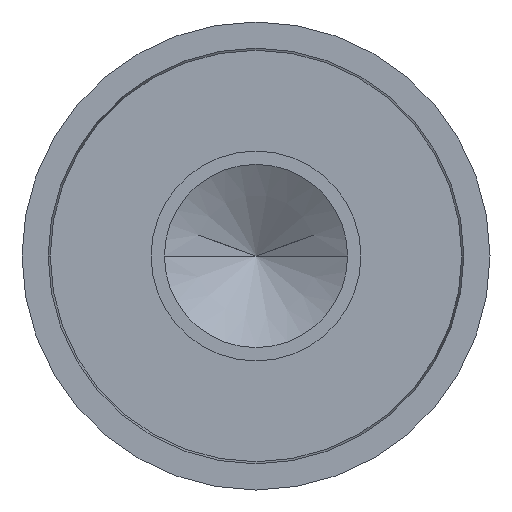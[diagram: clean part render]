
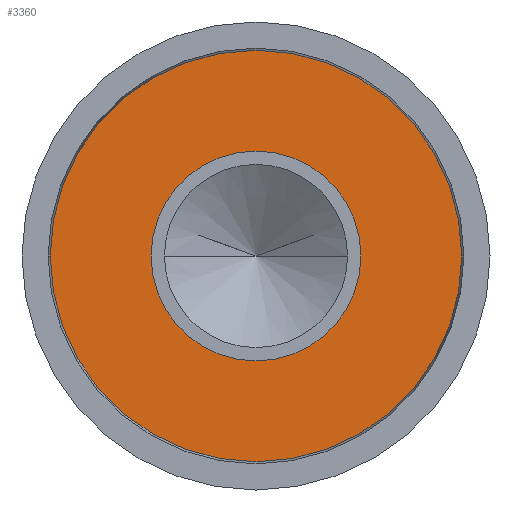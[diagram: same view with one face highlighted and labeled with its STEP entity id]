
A CAD part, left-side view. The second image highlights one B-rep face of the part: STEP entity #3360.
In plain terms, the highlighted planar face has unit normal (-1, 0, 0).
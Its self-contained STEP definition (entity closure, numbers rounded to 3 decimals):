
#2300=CARTESIAN_POINT('',(0.,-2.311,0.));
#2310=VERTEX_POINT('',#2300);
#2340=CARTESIAN_POINT('',(0.,0.,0.
));
#2350=DIRECTION('',(-1.,0.,0.));
#2360=DIRECTION('',(0.,1.,0.));
#2370=AXIS2_PLACEMENT_3D('',#2340,#2350,#2360);
#2380=CIRCLE('',#2370,2.311);
#2390=CARTESIAN_POINT('',(0.,0.,-2.311));
#2400=VERTEX_POINT('',#2390);
#2410=EDGE_CURVE('',#2400,#2310,#2380,.T.);
#2430=CARTESIAN_POINT('',(0.,2.311,0.));
#2440=VERTEX_POINT('',#2430);
#2450=EDGE_CURVE('',#2440,#2400,#2380,.T.);
#3060=CARTESIAN_POINT('',(0.,-4.588,4.588));
#3070=DIRECTION('',(1.,0.,0.));
#3080=DIRECTION('',(0.,-1.,0.));
#3090=AXIS2_PLACEMENT_3D('',#3060,#3070,#3080);
#3100=PLANE('',#3090);
#3110=CARTESIAN_POINT('',(0.,0.,0.)
);
#3120=DIRECTION('',(1.,-0.,-0.));
#3130=DIRECTION('',(0.,1.,0.));
#3140=AXIS2_PLACEMENT_3D('',#3110,#3120,#3130);
#3150=CIRCLE('',#3140,4.534);
#3160=CARTESIAN_POINT('',(0.,0.,
-4.534));
#3170=VERTEX_POINT('',#3160);
#3180=CARTESIAN_POINT('',(0.,4.534,0.));
#3190=VERTEX_POINT('',#3180);
#3200=EDGE_CURVE('',#3170,#3190,#3150,.T.);
#3210=ORIENTED_EDGE('',*,*,#3200,.F.);
#3220=CARTESIAN_POINT('',(0.,-4.534,0.));
#3230=VERTEX_POINT('',#3220);
#3240=EDGE_CURVE('',#3190,#3230,#3150,.T.);
#3250=ORIENTED_EDGE('',*,*,#3240,.F.);
#3260=EDGE_CURVE('',#3230,#3170,#3150,.T.);
#3270=ORIENTED_EDGE('',*,*,#3260,.F.);
#3280=EDGE_LOOP('',(#3270,#3250,#3210));
#3290=FACE_OUTER_BOUND('',#3280,.T.);
#3300=ORIENTED_EDGE('',*,*,#2410,.F.);
#3310=EDGE_CURVE('',#2310,#2440,#2380,.T.);
#3320=ORIENTED_EDGE('',*,*,#3310,.F.);
#3330=ORIENTED_EDGE('',*,*,#2450,.F.);
#3340=EDGE_LOOP('',(#3330,#3320,#3300));
#3350=FACE_BOUND('',#3340,.T.);
#3360=ADVANCED_FACE('',(#3290,#3350),#3100,.F.);
